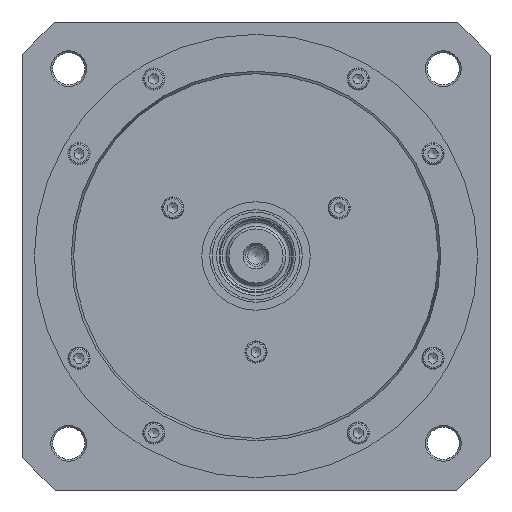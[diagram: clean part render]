
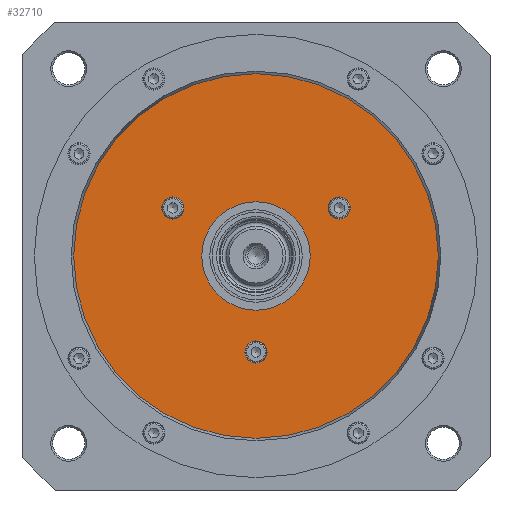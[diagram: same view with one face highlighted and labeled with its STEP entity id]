
A CAD part, left-side view. The second image highlights one B-rep face of the part: STEP entity #32710.
In plain terms, the highlighted planar face has unit normal (-1, 0, 0).
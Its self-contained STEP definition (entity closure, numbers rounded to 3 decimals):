
#5130=FACE_BOUND('',#10563,.T.);
#5131=FACE_BOUND('',#10564,.T.);
#5132=FACE_BOUND('',#10565,.T.);
#5133=FACE_BOUND('',#10566,.T.);
#8335=FACE_OUTER_BOUND('',#10562,.T.);
#10562=EDGE_LOOP('',(#23557));
#10563=EDGE_LOOP('',(#23558));
#10564=EDGE_LOOP('',(#23559));
#10565=EDGE_LOOP('',(#23560));
#10566=EDGE_LOOP('',(#23561));
#13358=CIRCLE('',#35273,74.);
#13359=CIRCLE('',#35275,4.5);
#13360=CIRCLE('',#35276,4.5);
#13361=CIRCLE('',#35277,4.5);
#13362=CIRCLE('',#35278,22.);
#15652=VERTEX_POINT('',#50463);
#15653=VERTEX_POINT('',#50466);
#15654=VERTEX_POINT('',#50468);
#15655=VERTEX_POINT('',#50470);
#15656=VERTEX_POINT('',#50472);
#18750=EDGE_CURVE('',#15652,#15652,#13358,.T.);
#18751=EDGE_CURVE('',#15653,#15653,#13359,.T.);
#18752=EDGE_CURVE('',#15654,#15654,#13360,.T.);
#18753=EDGE_CURVE('',#15655,#15655,#13361,.T.);
#18754=EDGE_CURVE('',#15656,#15656,#13362,.T.);
#23557=ORIENTED_EDGE('',*,*,#18750,.F.);
#23558=ORIENTED_EDGE('',*,*,#18751,.T.);
#23559=ORIENTED_EDGE('',*,*,#18752,.T.);
#23560=ORIENTED_EDGE('',*,*,#18753,.T.);
#23561=ORIENTED_EDGE('',*,*,#18754,.T.);
#31924=PLANE('',#35274);
#32710=ADVANCED_FACE('',(#8335,#5130,#5131,#5132,#5133),#31924,.T.);
#35273=AXIS2_PLACEMENT_3D('',#50464,#40228,#40229);
#35274=AXIS2_PLACEMENT_3D('',#50465,#40230,#40231);
#35275=AXIS2_PLACEMENT_3D('',#50467,#40232,#40233);
#35276=AXIS2_PLACEMENT_3D('',#50469,#40234,#40235);
#35277=AXIS2_PLACEMENT_3D('',#50471,#40236,#40237);
#35278=AXIS2_PLACEMENT_3D('',#50473,#40238,#40239);
#40228=DIRECTION('center_axis',(1.,0.,0.));
#40229=DIRECTION('ref_axis',(0.,1.,0.));
#40230=DIRECTION('center_axis',(-1.,0.,0.));
#40231=DIRECTION('ref_axis',(0.,-1.,0.));
#40232=DIRECTION('center_axis',(1.,0.,0.));
#40233=DIRECTION('ref_axis',(0.,0.5,0.866));
#40234=DIRECTION('center_axis',(1.,0.,0.));
#40235=DIRECTION('ref_axis',(0.,0.5,-0.866));
#40236=DIRECTION('center_axis',(1.,0.,0.));
#40237=DIRECTION('ref_axis',(0.,-1.,0.));
#40238=DIRECTION('center_axis',(1.,0.,0.));
#40239=DIRECTION('ref_axis',(0.,1.,0.));
#50463=CARTESIAN_POINT('',(-86.7,0.,74.));
#50464=CARTESIAN_POINT('Origin',(-86.7,0.,
0.));
#50465=CARTESIAN_POINT('Origin',(-86.7,0.,
74.));
#50466=CARTESIAN_POINT('',(-86.7,-31.525,23.397));
#50467=CARTESIAN_POINT('Origin',(-86.7,-33.775,19.5));
#50468=CARTESIAN_POINT('',(-86.7,36.025,15.603));
#50469=CARTESIAN_POINT('Origin',(-86.7,33.775,19.5));
#50470=CARTESIAN_POINT('',(-86.7,-4.5,-39.));
#50471=CARTESIAN_POINT('Origin',(-86.7,0.,
-39.));
#50472=CARTESIAN_POINT('',(-86.7,0.,22.));
#50473=CARTESIAN_POINT('Origin',(-86.7,0.,0.));
